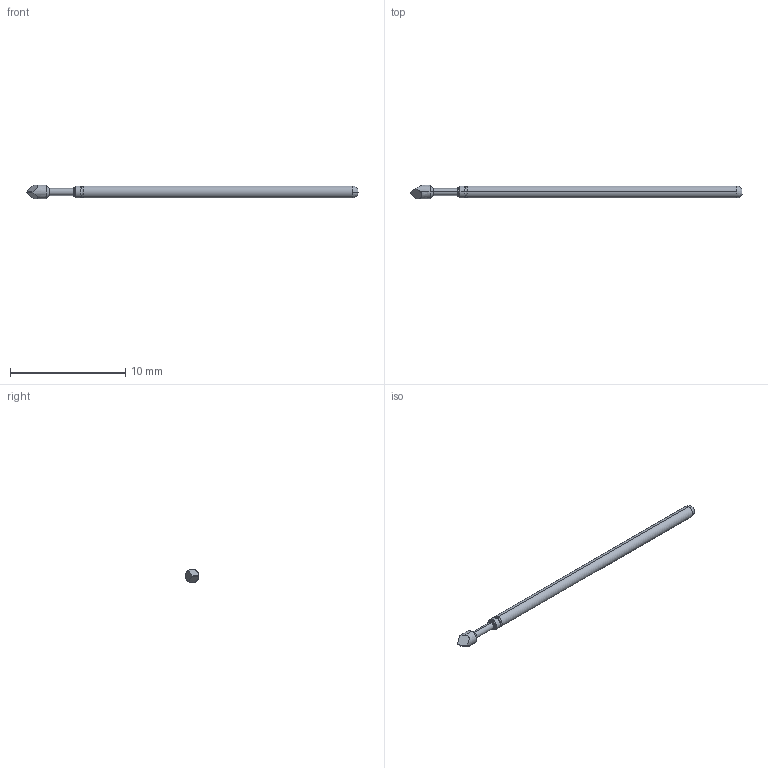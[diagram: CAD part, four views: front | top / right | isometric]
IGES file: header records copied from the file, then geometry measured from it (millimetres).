
Start section: SolidWorks IGES file using analytic representation for surfaces
Global section: file name: Z:\probe solid model mockups\Solidworks models\Parts\LFRE-1T RECD.IGS; native system: SolidWorks 2016; preprocessor: SolidWorks 2016; author: mlee; date: 180927.163830; units: inch
Bounding box: 28.78 x 1.19 x 1.19 mm (x, y, z)
Surface area: 90 mm2 (no closed solid volume)
Topology: 0 solids, 0 shells, 25 faces, 182 edges, 182 vertices
Faces by surface type: revolution 16, bspline 9
